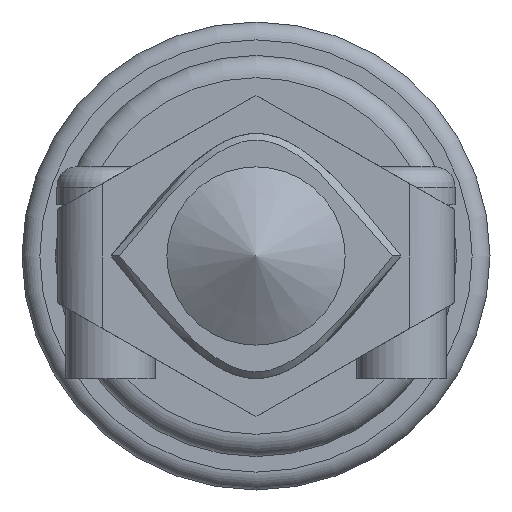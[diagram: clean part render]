
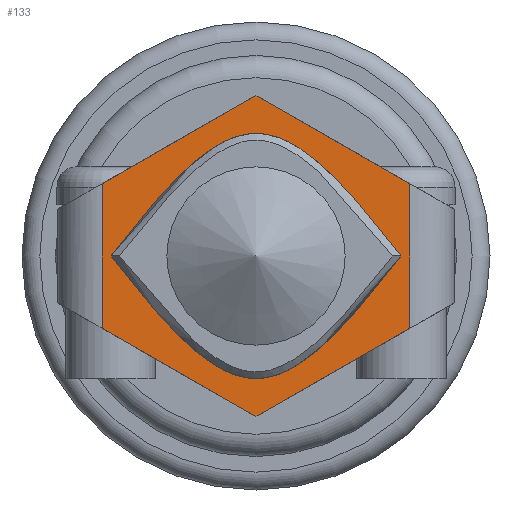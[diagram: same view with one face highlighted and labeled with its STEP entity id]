
A CAD part, left-side view. The second image highlights one B-rep face of the part: STEP entity #133.
In plain terms, the highlighted planar face has unit normal (-1, 0, 0).
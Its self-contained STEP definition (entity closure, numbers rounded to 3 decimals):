
#6 = CARTESIAN_POINT ( 'NONE',  ( 25.913, -11.758, 30.044 ) ) ;
#35 = CARTESIAN_POINT ( 'NONE',  ( 25.913, 4.042, 24.698 ) ) ;
#133 = ADVANCED_FACE ( 'NONE', ( #1450, #297 ), #2010, .F. ) ;
#152 = DIRECTION ( 'NONE',  ( 0., -0.868, -0.497 ) ) ;
#153 = CARTESIAN_POINT ( 'NONE',  ( 25.913, 6.042, 30.044 ) ) ;
#181 = CARTESIAN_POINT ( 'NONE',  ( 25.913, 3.642, 27.944 ) ) ;
#184 = ORIENTED_EDGE ( 'NONE', *, *, #1288, .F. ) ;
#212 = B_SPLINE_CURVE_WITH_KNOTS ( 'NONE', 3,
 ( #307, #1617, #534, #2363, #681 ),
 .UNSPECIFIED., .F., .F.,
 ( 4, 1, 4 ),
 ( 0., 0.5, 1. ),
 .UNSPECIFIED. ) ;
#278 = CARTESIAN_POINT ( 'NONE',  ( 25.913, -2.858, 35.144 ) ) ;
#281 = ORIENTED_EDGE ( 'NONE', *, *, #1373, .T. ) ;
#287 = LINE ( 'NONE', #839, #1480 ) ;
#297 = FACE_BOUND ( 'NONE', #1094, .T. ) ;
#307 = CARTESIAN_POINT ( 'NONE',  ( 25.913, -9.358, 27.944 ) ) ;
#354 = CARTESIAN_POINT ( 'NONE',  ( 25.913, -2.858, 19.694 ) ) ;
#365 = CARTESIAN_POINT ( 'NONE',  ( 25.913, 1.476, 25.194 ) ) ;
#395 = VECTOR ( 'NONE', #985, 1000. ) ;
#534 = CARTESIAN_POINT ( 'NONE',  ( 25.913, -2.858, 36.194 ) ) ;
#542 = VECTOR ( 'NONE', #152, 1000. ) ;
#545 = LINE ( 'NONE', #6, #856 ) ;
#549 = CARTESIAN_POINT ( 'NONE',  ( 25.913, -9.358, 27.944 ) ) ;
#591 = DIRECTION ( 'NONE',  ( 0., 0.868, -0.497 ) ) ;
#593 = CARTESIAN_POINT ( 'NONE',  ( 25.913, -9.758, 31.19 ) ) ;
#623 = LINE ( 'NONE', #2089, #395 ) ;
#630 = ORIENTED_EDGE ( 'NONE', *, *, #1638, .T. ) ;
#681 = CARTESIAN_POINT ( 'NONE',  ( 25.913, 3.642, 27.944 ) ) ;
#711 = VERTEX_POINT ( 'NONE', #738 ) ;
#720 = VERTEX_POINT ( 'NONE', #1615 ) ;
#738 = CARTESIAN_POINT ( 'NONE',  ( 25.913, -9.758, 24.698 ) ) ;
#810 = CARTESIAN_POINT ( 'NONE',  ( 25.913, 4.042, 30.044 ) ) ;
#839 = CARTESIAN_POINT ( 'NONE',  ( 25.913, -9.758, 30.044 ) ) ;
#856 = VECTOR ( 'NONE', #1512, 1000. ) ;
#884 = EDGE_CURVE ( 'NONE', #1694, #711, #623, .T. ) ;
#887 = ORIENTED_EDGE ( 'NONE', *, *, #1786, .T. ) ;
#893 = EDGE_LOOP ( 'NONE', ( #1785, #630, #887, #2208, #956, #281 ) ) ;
#956 = ORIENTED_EDGE ( 'NONE', *, *, #1895, .T. ) ;
#985 = DIRECTION ( 'NONE',  ( 0., -0.868, 0.497 ) ) ;
#999 = VERTEX_POINT ( 'NONE', #278 ) ;
#1080 = DIRECTION ( 'NONE',  ( 0., 0., 1. ) ) ;
#1094 = EDGE_LOOP ( 'NONE', ( #1518, #184 ) ) ;
#1188 = CARTESIAN_POINT ( 'NONE',  ( 25.913, 6.042, 30.044 ) ) ;
#1225 = CARTESIAN_POINT ( 'NONE',  ( 25.913, -2.858, 20.744 ) ) ;
#1234 = CARTESIAN_POINT ( 'NONE',  ( 25.913, 6.042, 25.844 ) ) ;
#1248 = LINE ( 'NONE', #1234, #542 ) ;
#1288 = EDGE_CURVE ( 'NONE', #720, #1993, #212, .T. ) ;
#1373 = EDGE_CURVE ( 'NONE', #1857, #1694, #1248, .T. ) ;
#1387 = LINE ( 'NONE', #810, #2221 ) ;
#1450 = FACE_OUTER_BOUND ( 'NONE', #893, .T. ) ;
#1467 = EDGE_CURVE ( 'NONE', #1993, #720, #2346, .T. ) ;
#1474 = CARTESIAN_POINT ( 'NONE',  ( 25.913, -7.191, 25.194 ) ) ;
#1480 = VECTOR ( 'NONE', #1580, 1000. ) ;
#1512 = DIRECTION ( 'NONE',  ( 0., 0.868, 0.497 ) ) ;
#1518 = ORIENTED_EDGE ( 'NONE', *, *, #1467, .F. ) ;
#1580 = DIRECTION ( 'NONE',  ( 0., 0., 1. ) ) ;
#1615 = CARTESIAN_POINT ( 'NONE',  ( 25.913, -9.358, 27.944 ) ) ;
#1617 = CARTESIAN_POINT ( 'NONE',  ( 25.913, -7.191, 30.694 ) ) ;
#1629 = DIRECTION ( 'NONE',  ( 1., 0., 0. ) ) ;
#1638 = EDGE_CURVE ( 'NONE', #711, #1959, #287, .T. ) ;
#1657 = VERTEX_POINT ( 'NONE', #1981 ) ;
#1689 = VECTOR ( 'NONE', #591, 1000. ) ;
#1694 = VERTEX_POINT ( 'NONE', #1225 ) ;
#1713 = DIRECTION ( 'NONE',  ( 0., 0., -1. ) ) ;
#1785 = ORIENTED_EDGE ( 'NONE', *, *, #884, .T. ) ;
#1786 = EDGE_CURVE ( 'NONE', #1959, #999, #545, .T. ) ;
#1857 = VERTEX_POINT ( 'NONE', #35 ) ;
#1895 = EDGE_CURVE ( 'NONE', #1657, #1857, #1387, .T. ) ;
#1935 = CARTESIAN_POINT ( 'NONE',  ( 25.913, 3.642, 27.944 ) ) ;
#1959 = VERTEX_POINT ( 'NONE', #593 ) ;
#1981 = CARTESIAN_POINT ( 'NONE',  ( 25.913, 4.042, 31.19 ) ) ;
#1993 = VERTEX_POINT ( 'NONE', #1935 ) ;
#2010 = PLANE ( 'NONE',  #2301 ) ;
#2089 = CARTESIAN_POINT ( 'NONE',  ( 25.913, -11.758, 25.844 ) ) ;
#2117 = LINE ( 'NONE', #1188, #1689 ) ;
#2208 = ORIENTED_EDGE ( 'NONE', *, *, #2240, .T. ) ;
#2221 = VECTOR ( 'NONE', #1713, 1000. ) ;
#2240 = EDGE_CURVE ( 'NONE', #999, #1657, #2117, .T. ) ;
#2301 = AXIS2_PLACEMENT_3D ( 'NONE', #153, #1629, #1080 ) ;
#2346 = B_SPLINE_CURVE_WITH_KNOTS ( 'NONE', 3,
 ( #181, #365, #354, #1474, #549 ),
 .UNSPECIFIED., .F., .F.,
 ( 4, 1, 4 ),
 ( 0., 0.5, 1. ),
 .UNSPECIFIED. ) ;
#2363 = CARTESIAN_POINT ( 'NONE',  ( 25.913, 1.476, 30.694 ) ) ;
